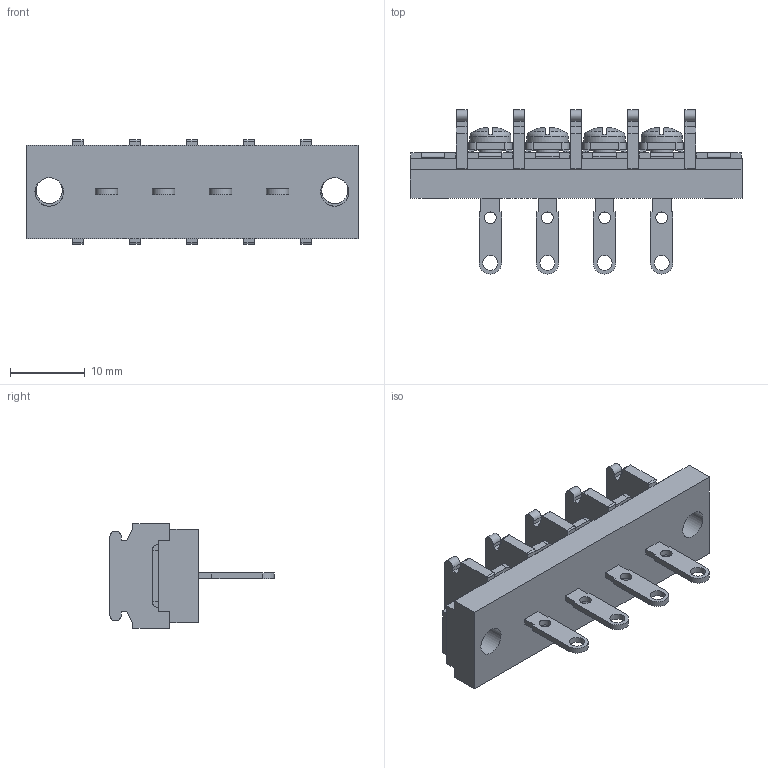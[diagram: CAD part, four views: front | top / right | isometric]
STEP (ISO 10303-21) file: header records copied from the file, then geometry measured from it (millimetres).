
FILE_DESCRIPTION(/* description */ ('Alibre Inc.'),/* implementation_level */ '2;1');
FILE_NAME(/* name */ 'export0',/* time_stamp */ '2015-10-26T16:35:49+09:00',/* author */ (''),/* organization */ (''),/* preprocessor_version */ 'ST-DEVELOPER v14',/* originating_system */ 'Alibre',/* authorisation */ '');
FILE_SCHEMA (('CONFIG_CONTROL_DESIGN'));
Length unit declared in the file: centimetre
Products named in the file (1): ID_1
Bounding box: 44.3 x 21.9 x 14 mm (x, y, z)
Volume: 3842 mm3; surface area: 3871.5 mm2
Topology: 1 solids, 17 shells, 924 faces, 2492 edges, 1640 vertices
Faces by surface type: plane 706, bspline 104, cylinder 82, cone 16, torus 8, sphere 8
Full cylindrical faces by diameter (mm): 1.57 x4, 2 x4, 3 x4, 3.5 x2, 3.8 x2, 5.5 x4
Entity records: 27537 total; most frequent: CARTESIAN_POINT 6065, ORIENTED_EDGE 4904, DIRECTION 3290, EDGE_CURVE 2452, VECTOR 1828, LINE 1828, VERTEX_POINT 1628, AXIS2_PLACEMENT_3D 1057
